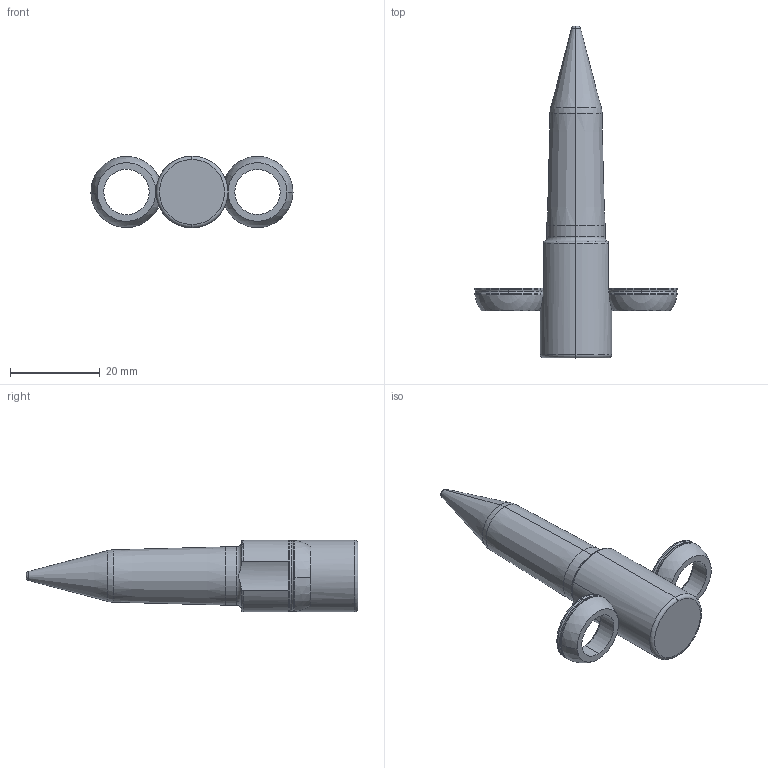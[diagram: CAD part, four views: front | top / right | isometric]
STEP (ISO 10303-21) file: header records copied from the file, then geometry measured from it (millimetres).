
FILE_DESCRIPTION (( 'STEP AP214' ), '1' );
FILE_NAME ('PA-T-13mm-2.5mm-25mm-3-A-F2.STEP', '2019-05-08T18:05:12', ( '' ), ( '' ), 'SwSTEP 2.0', 'SolidWorks 2017', '' );
FILE_SCHEMA (( 'AUTOMOTIVE_DESIGN' ));
Length unit declared in the file: inch
Products named in the file (3): PA-T-13mm-2.5mm-25mm-3-A-F2; SLPilot-PA-T-M_PA-T-13-2.5-25-3-A-F2; SLRadiusWasher_RadiusWasher-M
Assembly tree (3 placements, depth 2):
  PA-T-13mm-2.5mm-25mm-3-A-F2
    SLRadiusWasher_RadiusWasher-M  x2
    SLPilot-PA-T-M_PA-T-13-2.5-25-3-A-F2
Bounding box: 45.08 x 74.04 x 16 mm (x, y, z)
Volume: 10343.7 mm3; surface area: 4217.7 mm2
Topology: 3 solids, 3 shells, 61 faces, 136 edges, 81 vertices
Faces by surface type: torus 19, cylinder 18, cone 8, sphere 8, plane 8
Entity records: 1573 total; most frequent: CARTESIAN_POINT 352, DIRECTION 266, ORIENTED_EDGE 204, AXIS2_PLACEMENT_3D 123, EDGE_CURVE 102, CIRCLE 72, VERTEX_POINT 61, EDGE_LOOP 47
